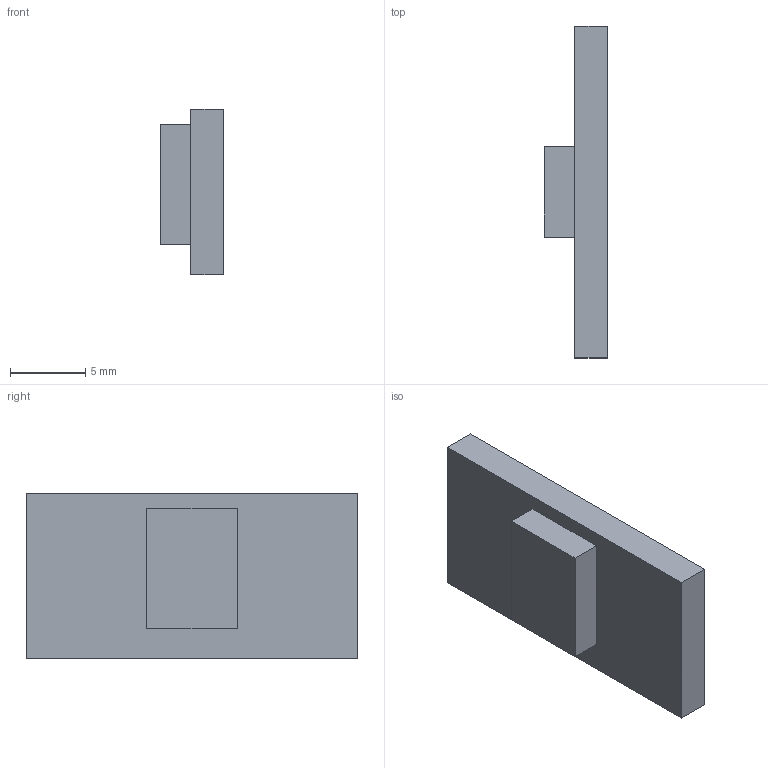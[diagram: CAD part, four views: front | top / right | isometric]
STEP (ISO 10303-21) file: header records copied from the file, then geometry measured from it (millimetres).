
FILE_DESCRIPTION(('Open CASCADE Model'),'2;1');
FILE_NAME('Open CASCADE Shape Model','2026-10-16T05:11:25',('Author'),( 'Open CASCADE'),'Open CASCADE STEP processor 7.9','Open CASCADE 7.9' ,'Unknown');
FILE_SCHEMA(('AUTOMOTIVE_DESIGN { 1 0 10303 214 1 1 1 1 }'));
Length unit declared in the file: millimetre
Products named in the file (1): Open CASCADE STEP translator 7.9 2
Bounding box: 4.18 x 22 x 11 mm (x, y, z)
Volume: 623.6 mm3; surface area: 683.9 mm2
Topology: 1 solids, 1 shells, 11 faces, 24 edges, 16 vertices
Faces by surface type: plane 11
Entity records: 620 total; most frequent: CARTESIAN_POINT 100, DIRECTION 96, LINE 72, VECTOR 72, ORIENTED_EDGE 48, PCURVE 48, DEFINITIONAL_REPRESENTATION 48, EDGE_CURVE 24
